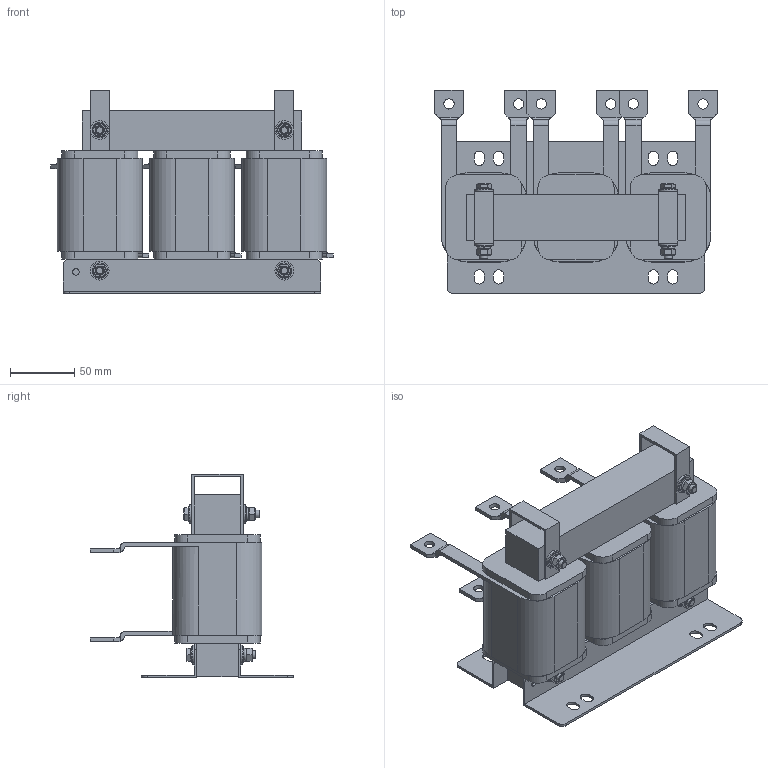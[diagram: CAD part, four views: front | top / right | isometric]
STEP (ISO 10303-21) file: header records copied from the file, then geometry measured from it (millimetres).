
FILE_DESCRIPTION(('STEP AP203'), '1');
FILE_NAME('栖闉罻 _ ISF-37_76-4', '', ('UNSPECIFIED'), ('UNSPECIFIED'), 'ASCON STEP Converter 1.6', 'ASCON Math Kernel', '');
FILE_SCHEMA(('CONFIG_CONTROL_DESIGN'));
Length unit declared in the file: millimetre
Products named in the file (13): ISF-37_76-4
Assembly tree (43 placements, depth 2):
  ISF-37_76-4
    ISF-37_76-4
    ISF-37_76-4  x2
    ISF-37_76-4  x6
    ISF-37_76-4  x3
    ISF-37_76-4
    ISF-37_76-4  x2
    ISF-37_76-4  x8
    ISF-37_76-4  x8
    ISF-37_76-4  x4
    ISF-37_76-4  x4
    ISF-37_76-4  x2
    ISF-37_76-4  x2
Bounding box: 219 x 157.5 x 158 mm (x, y, z)
Volume: 1464935.9 mm3; surface area: 271214.2 mm2
Topology: 43 solids, 43 shells, 536 faces, 1230 edges, 784 vertices
Faces by surface type: plane 376, cylinder 144, cone 12, torus 4
Full cylindrical faces by diameter (mm): 5 x2, 6 x36, 8 x6, 12 x8, 14.5 x8
Entity records: 7021 total; most frequent: CARTESIAN_POINT 1223, DIRECTION 962, ORIENTED_EDGE 840, EDGE_CURVE 420, AXIS2_PLACEMENT_3D 325, LINE 312, VECTOR 312, VERTEX_POINT 282
